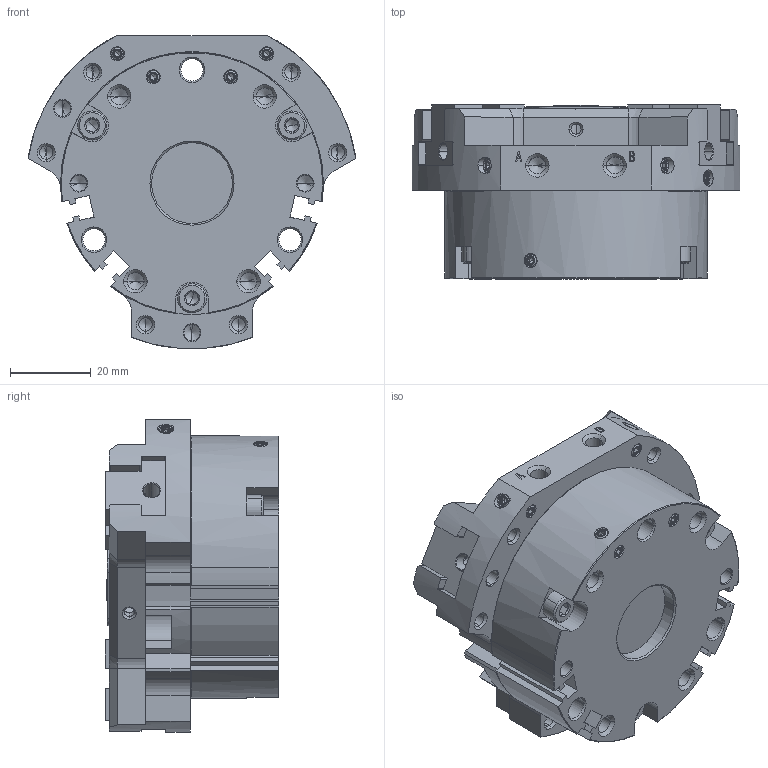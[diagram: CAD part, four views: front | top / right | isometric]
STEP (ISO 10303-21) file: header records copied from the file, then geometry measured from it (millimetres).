
FILE_DESCRIPTION (( 'STEP AP214' ), '1' );
FILE_NAME ('HP-NTS307-HCL.STEP', '2025-01-09T05:57:00', ( '' ), ( '' ), 'SwSTEP 2.0', 'SolidWorks 2022', '' );
FILE_SCHEMA (( 'AUTOMOTIVE_DESIGN' ));
Length unit declared in the file: millimetre
Products named in the file (9): BODY^HP-NTS307; COVER^HP-NTS307; BOLT^HP-NTS307; REAR BODY^HP-NTS307; S-TOME1^HP-NTS307; S-TOME2^HP-NTS307; MASTER JAW^HP-NTS307; S-SARA^HP-NTS307; HP-NTS307-HCL
Assembly tree (20 placements, depth 2):
  HP-NTS307-HCL
    BODY^HP-NTS307
    REAR BODY^HP-NTS307
    MASTER JAW^HP-NTS307  x3
    COVER^HP-NTS307
    BOLT^HP-NTS307  x3
    S-SARA^HP-NTS307  x3
    S-TOME1^HP-NTS307  x7
    S-TOME2^HP-NTS307
Bounding box: 81.09 x 43 x 77.4 mm (x, y, z)
Volume: 130951.8 mm3; surface area: 46843 mm2
Topology: 20 solids, 20 shells, 1954 faces, 5319 edges, 3415 vertices
Faces by surface type: plane 1289, cone 290, cylinder 255, bspline 120
Entity records: 58193 total; most frequent: CARTESIAN_POINT 16014, ORIENTED_EDGE 8998, DIRECTION 7715, EDGE_CURVE 4499, LINE 3631, VECTOR 3631, VERTEX_POINT 2951, AXIS2_PLACEMENT_3D 2042
